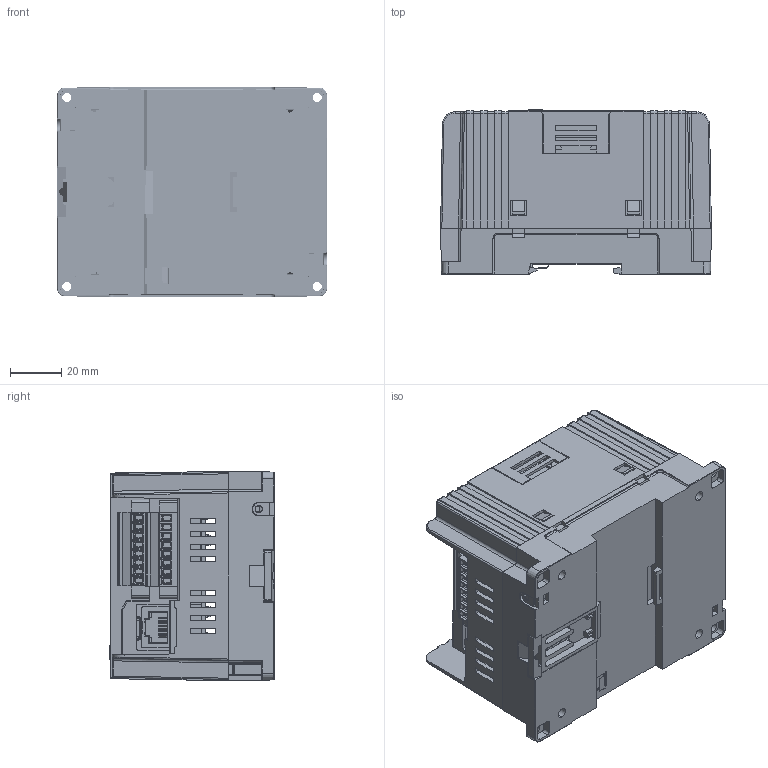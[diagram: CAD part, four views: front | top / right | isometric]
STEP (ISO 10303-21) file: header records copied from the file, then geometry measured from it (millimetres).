
FILE_DESCRIPTION((''),'2;1');
FILE_NAME('SPC-MC20-3D-20240521','2024-05-20T10:53:24',('Administrator'),(''),'CREO PARAMETRIC BY PTC INC, 2023073','CREO PARAMETRIC BY PTC INC, 2023073','');
FILE_SCHEMA(('CONFIG_CONTROL_DESIGN','SHAPE_APPEARANCE_LAYERS_GROUPS'));
Products named in the file (1): SPC-MC20-3D-20240521
Bounding box: 106 x 64.5 x 82 mm (x, y, z)
Surface area: 183218.3 mm2 (no closed solid volume)
Topology: 0 solids, 21 shells, 8283 faces, 22222 edges, 14486 vertices
Faces by surface type: plane 6228, cylinder 1829, cone 176, torus 26, sphere 14, bspline 6, extrusion 4
Entity records: 313351 total; most frequent: CARTESIAN_POINT 51997, ORIENTED_EDGE 44424, DIRECTION 40657, EDGE_CURVE 22212, VECTOR 17211, LINE 17207, VERTEX_POINT 14486, AXIS2_PLACEMENT_3D 11723
